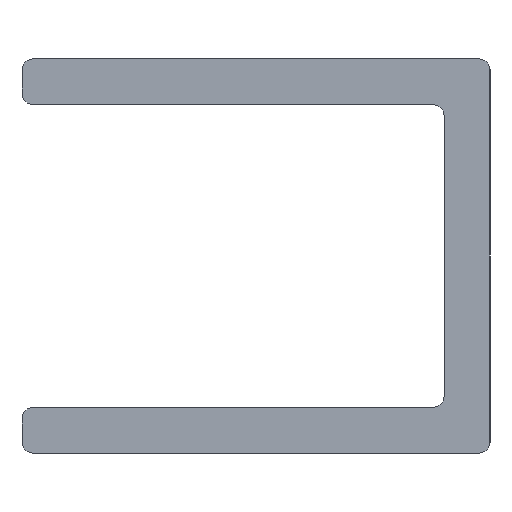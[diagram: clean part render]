
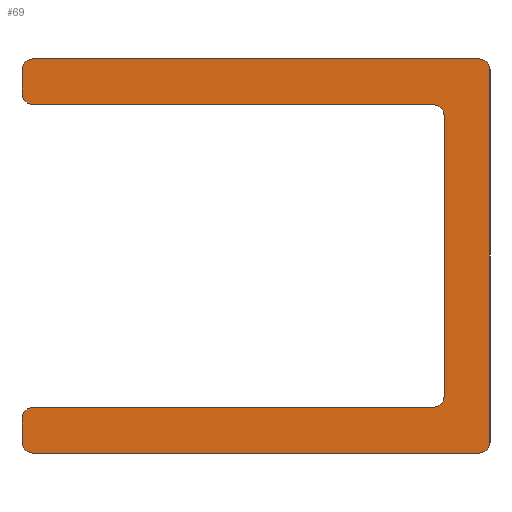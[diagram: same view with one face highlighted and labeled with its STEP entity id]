
A CAD part, left-side view. The second image highlights one B-rep face of the part: STEP entity #69.
In plain terms, the highlighted planar face has unit normal (-1, 0, 0).
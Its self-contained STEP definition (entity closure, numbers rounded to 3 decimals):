
#51=PLANE('',#404);
#69=ADVANCED_FACE('',(#95),#51,.T.);
#95=FACE_OUTER_BOUND('',#113,.T.);
#113=EDGE_LOOP('',(#258,#259,#260,#261,#262,#263,#264,#265,#266,#267,#268,
#269,#270,#271,#272,#273));
#116=LINE('',#517,#148);
#120=LINE('',#529,#152);
#124=LINE('',#541,#156);
#128=LINE('',#553,#160);
#132=LINE('',#565,#164);
#136=LINE('',#577,#168);
#140=LINE('',#589,#172);
#144=LINE('',#601,#176);
#148=VECTOR('',#415,1.);
#152=VECTOR('',#427,1.);
#156=VECTOR('',#439,1.);
#160=VECTOR('',#451,1.);
#164=VECTOR('',#463,1.);
#168=VECTOR('',#475,1.);
#172=VECTOR('',#487,1.);
#176=VECTOR('',#499,1.);
#258=ORIENTED_EDGE('',*,*,#306,.F.);
#259=ORIENTED_EDGE('',*,*,#352,.F.);
#260=ORIENTED_EDGE('',*,*,#349,.F.);
#261=ORIENTED_EDGE('',*,*,#346,.F.);
#262=ORIENTED_EDGE('',*,*,#343,.F.);
#263=ORIENTED_EDGE('',*,*,#340,.F.);
#264=ORIENTED_EDGE('',*,*,#337,.F.);
#265=ORIENTED_EDGE('',*,*,#334,.F.);
#266=ORIENTED_EDGE('',*,*,#331,.F.);
#267=ORIENTED_EDGE('',*,*,#328,.F.);
#268=ORIENTED_EDGE('',*,*,#325,.F.);
#269=ORIENTED_EDGE('',*,*,#322,.F.);
#270=ORIENTED_EDGE('',*,*,#319,.F.);
#271=ORIENTED_EDGE('',*,*,#316,.F.);
#272=ORIENTED_EDGE('',*,*,#313,.F.);
#273=ORIENTED_EDGE('',*,*,#310,.F.);
#274=VERTEX_POINT('',#509);
#275=VERTEX_POINT('',#510);
#278=VERTEX_POINT('',#518);
#280=VERTEX_POINT('',#524);
#282=VERTEX_POINT('',#530);
#284=VERTEX_POINT('',#536);
#286=VERTEX_POINT('',#542);
#288=VERTEX_POINT('',#548);
#290=VERTEX_POINT('',#554);
#292=VERTEX_POINT('',#560);
#294=VERTEX_POINT('',#566);
#296=VERTEX_POINT('',#572);
#298=VERTEX_POINT('',#578);
#300=VERTEX_POINT('',#584);
#302=VERTEX_POINT('',#590);
#304=VERTEX_POINT('',#596);
#306=EDGE_CURVE('',#274,#275,#354,.T.);
#310=EDGE_CURVE('',#275,#278,#116,.T.);
#313=EDGE_CURVE('',#278,#280,#356,.T.);
#316=EDGE_CURVE('',#280,#282,#120,.T.);
#319=EDGE_CURVE('',#282,#284,#358,.T.);
#322=EDGE_CURVE('',#284,#286,#124,.T.);
#325=EDGE_CURVE('',#286,#288,#360,.T.);
#328=EDGE_CURVE('',#288,#290,#128,.T.);
#331=EDGE_CURVE('',#290,#292,#362,.T.);
#334=EDGE_CURVE('',#292,#294,#132,.T.);
#337=EDGE_CURVE('',#294,#296,#364,.T.);
#340=EDGE_CURVE('',#296,#298,#136,.T.);
#343=EDGE_CURVE('',#298,#300,#366,.T.);
#346=EDGE_CURVE('',#300,#302,#140,.T.);
#349=EDGE_CURVE('',#302,#304,#368,.T.);
#352=EDGE_CURVE('',#304,#274,#144,.T.);
#354=CIRCLE('',#371,0.3);
#356=CIRCLE('',#375,0.3);
#358=CIRCLE('',#379,0.3);
#360=CIRCLE('',#383,0.3);
#362=CIRCLE('',#387,0.3);
#364=CIRCLE('',#391,0.3);
#366=CIRCLE('',#395,0.3);
#368=CIRCLE('',#399,0.3);
#371=AXIS2_PLACEMENT_3D('',#508,#407,#408);
#375=AXIS2_PLACEMENT_3D('',#523,#420,#421);
#379=AXIS2_PLACEMENT_3D('',#535,#432,#433);
#383=AXIS2_PLACEMENT_3D('',#547,#444,#445);
#387=AXIS2_PLACEMENT_3D('',#559,#456,#457);
#391=AXIS2_PLACEMENT_3D('',#571,#468,#469);
#395=AXIS2_PLACEMENT_3D('',#583,#480,#481);
#399=AXIS2_PLACEMENT_3D('',#595,#492,#493);
#404=AXIS2_PLACEMENT_3D('',#605,#505,#506);
#407=DIRECTION('',(1.,0.,0.));
#408=DIRECTION('',(0.,0.,1.));
#415=DIRECTION('',(0.,0.,1.));
#420=DIRECTION('',(1.,0.,0.));
#421=DIRECTION('',(0.,0.,-1.));
#427=DIRECTION('',(0.,-1.,0.));
#432=DIRECTION('',(1.,0.,0.));
#433=DIRECTION('',(0.,0.,1.));
#439=DIRECTION('',(0.,0.,-1.));
#444=DIRECTION('',(1.,0.,0.));
#445=DIRECTION('',(0.,0.,1.));
#451=DIRECTION('',(0.,1.,0.));
#456=DIRECTION('',(1.,0.,0.));
#457=DIRECTION('',(0.,0.,1.));
#463=DIRECTION('',(0.,0.,1.));
#468=DIRECTION('',(1.,0.,0.));
#469=DIRECTION('',(0.,0.,1.));
#475=DIRECTION('',(0.,-1.,0.));
#480=DIRECTION('',(-1.,0.,0.));
#481=DIRECTION('',(0.,0.,-1.));
#487=DIRECTION('',(0.,0.,1.));
#492=DIRECTION('',(-1.,0.,0.));
#493=DIRECTION('',(0.,0.,-1.));
#499=DIRECTION('',(0.,1.,0.));
#505=DIRECTION('',(-1.,0.,0.));
#506=DIRECTION('',(0.,0.,1.));
#508=CARTESIAN_POINT('',(-50.,11.7,4.6));
#509=CARTESIAN_POINT('',(-50.,11.7,4.3));
#510=CARTESIAN_POINT('',(-50.,12.,4.6));
#517=CARTESIAN_POINT('',(-50.,12.,5.3));
#518=CARTESIAN_POINT('',(-50.,12.,5.3));
#523=CARTESIAN_POINT('',(-50.,11.7,5.3));
#524=CARTESIAN_POINT('',(-50.,11.7,5.6));
#529=CARTESIAN_POINT('',(-50.,-1.,5.6));
#530=CARTESIAN_POINT('',(-50.,-1.,5.6));
#535=CARTESIAN_POINT('',(-50.,-1.,5.3));
#536=CARTESIAN_POINT('',(-50.,-1.3,5.3));
#541=CARTESIAN_POINT('',(-50.,-1.3,-5.3));
#542=CARTESIAN_POINT('',(-50.,-1.3,-5.3));
#547=CARTESIAN_POINT('',(-50.,-1.,-5.3));
#548=CARTESIAN_POINT('',(-50.,-1.,-5.6));
#553=CARTESIAN_POINT('',(-50.,11.7,-5.6));
#554=CARTESIAN_POINT('',(-50.,11.7,-5.6));
#559=CARTESIAN_POINT('',(-50.,11.7,-5.3));
#560=CARTESIAN_POINT('',(-50.,12.,-5.3));
#565=CARTESIAN_POINT('',(-50.,12.,-4.6));
#566=CARTESIAN_POINT('',(-50.,12.,-4.6));
#571=CARTESIAN_POINT('',(-50.,11.7,-4.6));
#572=CARTESIAN_POINT('',(-50.,11.7,-4.3));
#577=CARTESIAN_POINT('',(-50.,0.3,-4.3));
#578=CARTESIAN_POINT('',(-50.,0.3,-4.3));
#583=CARTESIAN_POINT('',(-50.,0.3,-4.));
#584=CARTESIAN_POINT('',(-50.,0.,-4.));
#589=CARTESIAN_POINT('',(-50.,0.,4.));
#590=CARTESIAN_POINT('',(-50.,0.,4.));
#595=CARTESIAN_POINT('',(-50.,0.3,4.));
#596=CARTESIAN_POINT('',(-50.,0.3,4.3));
#601=CARTESIAN_POINT('',(-50.,11.7,4.3));
#605=CARTESIAN_POINT('',(-50.,11.7,4.6));
